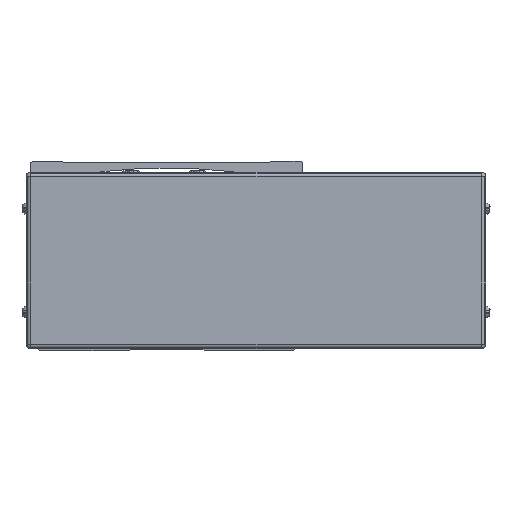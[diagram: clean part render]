
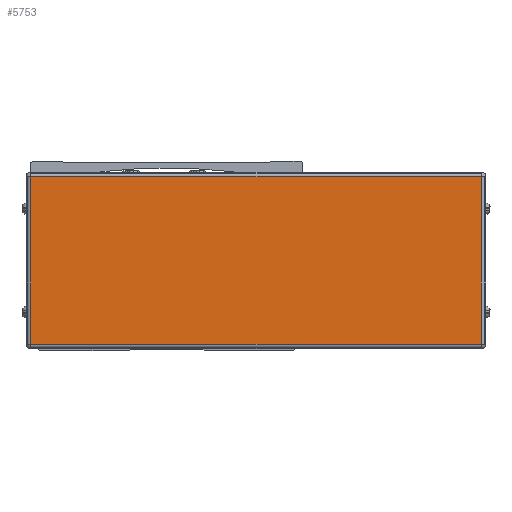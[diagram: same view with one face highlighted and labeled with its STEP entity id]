
A CAD part, front view. The second image highlights one B-rep face of the part: STEP entity #5753.
In plain terms, the highlighted planar face has unit normal (0, -1, 0).
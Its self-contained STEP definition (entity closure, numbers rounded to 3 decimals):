
#5753=ADVANCED_FACE('',(#12288),#12289,.T.);
#12288=FACE_OUTER_BOUND('',#21047,.T.);
#12289=PLANE('',#21048);
#21047=EDGE_LOOP('',(#37395,#37396,#37397,#37398));
#21048=AXIS2_PLACEMENT_3D('',#37399,#37400,#37401);
#37395=ORIENTED_EDGE('',*,*,#52568,.F.);
#37396=ORIENTED_EDGE('',*,*,#52566,.F.);
#37397=ORIENTED_EDGE('',*,*,#51170,.F.);
#37398=ORIENTED_EDGE('',*,*,#52569,.F.);
#37399=CARTESIAN_POINT('',(-259.5,-63.778,-8.));
#37400=DIRECTION('',(0.,-1.0,0.));
#37401=DIRECTION('',(1.0,0.,0.));
#51170=EDGE_CURVE('',#59930,#55568,#63022,.T.);
#52566=EDGE_CURVE('',#55568,#64041,#64903,.T.);
#52568=EDGE_CURVE('',#64041,#64905,#64906,.T.);
#52569=EDGE_CURVE('',#64905,#59930,#64907,.T.);
#55568=VERTEX_POINT('',#68716);
#59930=VERTEX_POINT('',#75004);
#63022=LINE('',#79447,#79448);
#64041=VERTEX_POINT('',#80920);
#64903=LINE('',#82180,#82181);
#64905=VERTEX_POINT('',#82183);
#64906=LINE('',#82184,#82185);
#64907=LINE('',#82186,#82187);
#68716=CARTESIAN_POINT('',(-361.7,-63.778,30.));
#75004=CARTESIAN_POINT('',(-361.7,-63.778,-46.));
#79447=CARTESIAN_POINT('',(-361.7,-63.778,-8.));
#79448=VECTOR('',#91815,10.0);
#80920=CARTESIAN_POINT('',(-157.3,-63.778,30.));
#82180=CARTESIAN_POINT('',(-259.5,-63.778,30.));
#82181=VECTOR('',#93397,10.0);
#82183=CARTESIAN_POINT('',(-157.3,-63.778,-46.));
#82184=CARTESIAN_POINT('',(-157.3,-63.778,-8.));
#82185=VECTOR('',#93398,10.0);
#82186=CARTESIAN_POINT('',(-259.5,-63.778,-46.));
#82187=VECTOR('',#93399,10.0);
#91815=DIRECTION('',(0.0,0.,1.0));
#93397=DIRECTION('',(1.0,0.,0.));
#93398=DIRECTION('',(0.0,0.,-1.0));
#93399=DIRECTION('',(-1.0,0.,0.));
